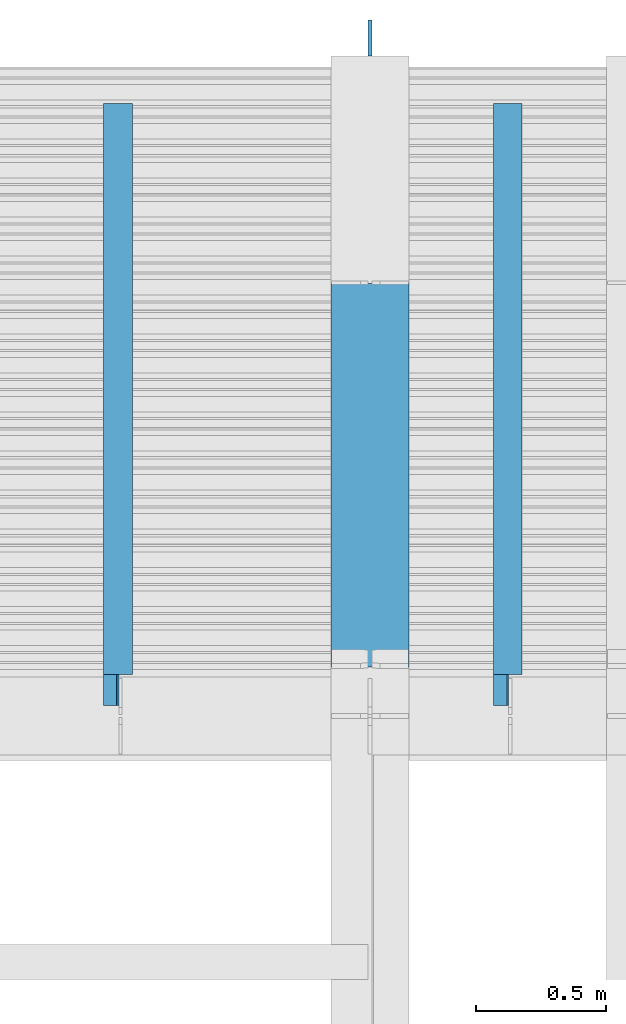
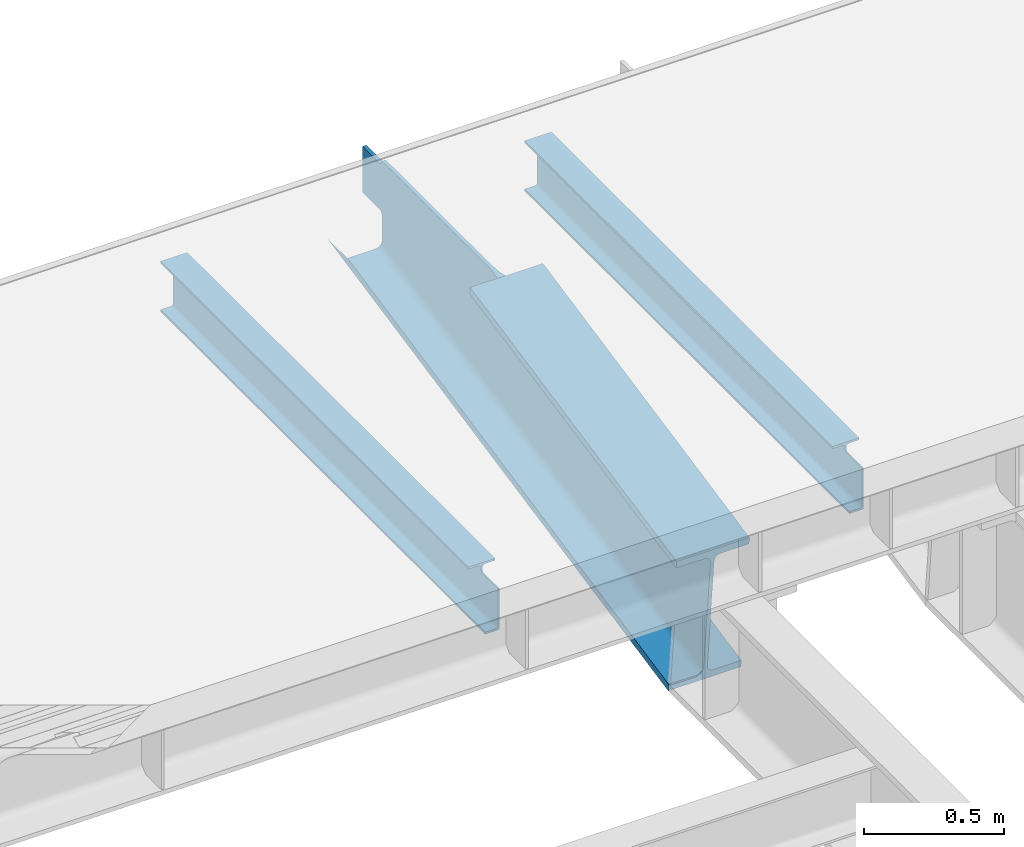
# One storey, part 10 of 12: 3 beams.
"""IFC2X3 building model written with IfcOpenShell, lengths in millimetres."""

from ifc_helpers import new_model, entity, si_unit, converted_unit, derived_unit, direction, frame, origin_with_axes, place, context, subcontext, project, spatial, faceted_brep, type_object, element, save


model = new_model("IFC2X3")

# Units and contexts
model_context = context("Model", 3, precision=0.01, world=frame((0.0, 4.29681676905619e-09, 0.0)), true_north=direction((4.01073788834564e-13, 1.0)))
plan_context = context("Plan", 3, precision=0.01, world=frame((0.0, 4.29681676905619e-09, 0.0)), true_north=direction((4.01073788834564e-13, 1.0)))
body_context = subcontext(model_context, "Body", "Model", "MODEL_VIEW")
ifc_project = project(units=[converted_unit("PLANEANGLEUNIT", "DEGREE", entity("IfcPositiveLengthMeasure", 0.0174532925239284), si_unit("PLANEANGLEUNIT", "RADIAN"), dimensions=[0, 0, 0, 0, 0, 0, 0]), si_unit("AREAUNIT", "SQUARE_METRE"), si_unit("LENGTHUNIT", "METRE", prefix="MILLI"), si_unit("MASSUNIT", "GRAM", prefix="KILO"), si_unit("POWERUNIT", "WATT"), si_unit("PRESSUREUNIT", "PASCAL"), si_unit("FORCEUNIT", "NEWTON", prefix="KILO"), si_unit("ELECTRICVOLTAGEUNIT", "VOLT"), si_unit("ELECTRICCURRENTUNIT", "AMPERE"), si_unit("THERMODYNAMICTEMPERATUREUNIT", "DEGREE_CELSIUS"), si_unit("TIMEUNIT", "SECOND"), si_unit("VOLUMEUNIT", "CUBIC_METRE"), derived_unit("LINEARVELOCITYUNIT", [(si_unit("LENGTHUNIT", "METRE"), 1), (si_unit("TIMEUNIT", "SECOND"), -1)]), derived_unit("VOLUMETRICFLOWRATEUNIT", [(si_unit("VOLUMEUNIT", "CUBIC_METRE"), 1), (si_unit("TIMEUNIT", "SECOND"), -1)]), derived_unit("THERMALTRANSMITTANCEUNIT", [(si_unit("POWERUNIT", "WATT"), 1), (si_unit("THERMODYNAMICTEMPERATUREUNIT", "KELVIN"), -1), (si_unit("AREAUNIT", "SQUARE_METRE"), -1)]), derived_unit("SOUNDPRESSUREUNIT", [(si_unit("PRESSUREUNIT", "PASCAL"), 1)])], contexts=[model_context, plan_context])

# Site, building, storey
site_placement = place(None, frame((0.0, -4.29681676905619e-09, 0.0), z_axis=(0.0, 0.0, 1.0), x_axis=(1.0, 0.0, 0.0)))
site = spatial("IfcSite", under=ifc_project, at=site_placement, Name="Gardermoen", CompositionType="ELEMENT")
building_placement = place(site_placement, frame((0.0, 4.29681676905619e-09, 0.0), z_axis=(0.0, 0.0, 1.0), x_axis=(1.0, 0.0, 0.0)))
building = spatial("IfcBuilding", under=site, at=building_placement, Name="TH", CompositionType="ELEMENT")
storey_placement = place(building_placement, origin_with_axes())
storey = spatial("IfcBuildingStorey", under=building, at=storey_placement, Name="D", CompositionType="ELEMENT", Elevation=0.0)

# Beams
beam_type_1 = type_object("IfcBeamType", Name="HEB600", PredefinedType="NOTDEFINED")
beam_1_placement = place(storey_placement, frame((906470.000000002, 485190.189690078, 209433.977425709), z_axis=(0.0, -0.199367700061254, 0.979924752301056), x_axis=(0.0, 0.979924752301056, 0.199367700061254)))
element("IfcBeam", 1, at=beam_1_placement, inside=storey, type_object=beam_type_1, Name="STÅLBJELKE", ObjectType="HEB600", context=body_context, shape_type="Brep", body=[
    faceted_brep([(-1.86077646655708e-10, -150.000000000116, -300.0), (2336.90976963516, -150.000000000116, -300.0), (2336.90976963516, 149.999999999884, -300.0), (-1.86077646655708e-10, 149.999999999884, -300.0), (3.02083751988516, -150.000000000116, -270.0), (2343.0132156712, -150.000000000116, -270.0), (2336.90976963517, -150.000000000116, -299.99940369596), (2477.73692631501, -150.000000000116, -299.999403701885), (3.02083751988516, -34.7500000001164, -270.0), (2343.0132156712, -34.7500000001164, -270.0), (3.07307761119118, -29.4825613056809, -269.481202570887), (2343.11876617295, -29.4825613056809, -269.481202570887), (3.2277903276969, -24.417547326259, -267.944747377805), (2343.4313614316, -24.417547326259, -267.944747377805), (3.47903014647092, -19.7496037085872, -265.449679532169), (2343.93898858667, -19.7496037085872, -265.449679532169), (3.81714206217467, -15.6581169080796, -262.091883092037), (2344.62213981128, -15.6581169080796, -262.091883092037), (4.22913262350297, -12.3003204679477, -258.000396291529), (2345.45456198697, -12.3003204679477, -258.000396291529), (4.69916926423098, -9.80525262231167, -253.332452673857), (2346.40426559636, -9.80525262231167, -253.332452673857), (5.20918873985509, -8.2687974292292, -248.267438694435), (2347.43475406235, -8.2687974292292, -248.267438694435), (5.73959128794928, -7.75000000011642, -243.0), (2348.50642629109, -7.75000000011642, -243.0), (54.6771591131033, -7.75000000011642, 243.0), (1694.86260503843, -7.75000000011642, 243.0), (2417.47329829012, -7.7500000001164, 95.9833689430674), (2417.0786473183, -7.7500000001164, 92.5195494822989), (2417.2914778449, -7.7500000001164, 89.0398227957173), (2418.10532312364, -7.7500000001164, 85.6499185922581), (2419.49545488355, -7.7500000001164, 82.4528373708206), (2421.41963468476, -7.7500000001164, 79.5457208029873), (2423.81939731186, -7.7500000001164, 77.0169001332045), (2426.62182720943, -7.7500000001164, 74.9432122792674), (2429.74177398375, -7.7500000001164, 73.3876651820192), (2433.08443965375, -7.7500000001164, 72.3975233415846), (2548.71555585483, -7.7500000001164, 48.8721334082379), (2508.84201733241, -7.75000000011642, -147.112809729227), (2393.210926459, -7.75000000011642, -123.587382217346), (2390.0959551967, -7.75000000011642, -123.204911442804), (2386.95950279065, -7.75000000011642, -123.314438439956), (2383.87879912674, -7.75000000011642, -123.913266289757), (2380.92970137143, -7.75000000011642, -124.986649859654), (2378.18482611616, -7.75000000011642, -126.508158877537), (2375.71176131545, -7.75000000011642, -128.440328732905), (2373.57140204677, -7.75000000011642, -130.735582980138), (2371.81645107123, -7.75000000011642, -133.337404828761), (2370.49012111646, -7.75000000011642, -136.181728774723), (2369.62507083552, -7.75000000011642, -139.198518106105), (55.2075616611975, -8.2687974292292, 248.267438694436), (1668.97228569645, -8.26879742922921, 248.267438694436), (55.7175811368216, -9.80525262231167, 253.332452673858), (1644.07691680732, -9.80525262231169, 253.332452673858), (56.1876177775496, -12.3003204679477, 258.000396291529), (1621.13321343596, -12.3003204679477, 258.000396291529), (56.5996083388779, -15.6581169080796, 262.091883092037), (1601.02288923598, -15.6581169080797, 262.091883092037), (56.9377202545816, -19.7496037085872, 265.449679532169), (1584.51877323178, -19.7496037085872, 265.449679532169), (57.1889600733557, -24.417547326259, 267.944747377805), (1572.25510798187, -24.417547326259, 267.944747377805), (57.3436727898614, -29.482561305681, 269.481202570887), (1564.70318020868, -29.482561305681, 269.481202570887), (57.3959128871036, -34.7500005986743, 270.000000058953), (1562.1532028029, -34.7500071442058, 270.000000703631), (57.3959128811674, -150.000000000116, 270.0), (1562.1532028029, -150.000000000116, 270.0), (1562.1532028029, -34.7500000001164, 270.0), (57.3959128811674, -34.7500000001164, 270.0), (60.4167504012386, -150.000000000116, 300.0), (1565.17404025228, -150.000000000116, 300.0), (1562.1532028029, -150.000000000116, 270.000000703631), (57.3959128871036, -150.000000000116, 270.000000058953), (60.4167504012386, 149.999999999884, 300.0), (1565.17404025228, 149.999999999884, 300.0), (57.3959128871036, 149.999999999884, 270.000000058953), (1562.1532028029, 149.999999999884, 270.000000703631), (57.3959128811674, 34.7499999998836, 270.0), (1562.1532028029, 34.7499999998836, 270.0), (1562.1532028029, 149.999999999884, 270.0), (57.3959128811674, 149.999999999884, 270.0), (57.3436727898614, 29.4825613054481, 269.481202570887), (1564.70318020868, 29.4825613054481, 269.481202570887), (1562.1532028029, 34.7500071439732, 270.000000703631), (57.3959128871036, 34.7500005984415, 270.000000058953), (57.1889600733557, 24.4175473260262, 267.944747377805), (1572.25510798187, 24.4175473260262, 267.944747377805), (56.9377202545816, 19.7496037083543, 265.449679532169), (1584.51877323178, 19.7496037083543, 265.449679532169), (56.5996083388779, 15.6581169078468, 262.091883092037), (1601.0228901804, 15.6581169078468, 262.091883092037), (56.1876177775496, 12.3003204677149, 258.000396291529), (1621.13321343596, 12.3003204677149, 258.000396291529), (55.7175811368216, 9.80525262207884, 253.332452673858), (1644.07691680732, 9.80525262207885, 253.332452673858), (55.2075616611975, 8.26879742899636, 248.267438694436), (1668.97228569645, 8.26879742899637, 248.267438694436), (54.6771591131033, 7.74999999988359, 243.0), (1694.86260503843, 7.7499999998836, 243.0), (5.73959128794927, 7.74999999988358, -243.0), (2348.50642629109, 7.74999999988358, -243.0), (2369.62507083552, 7.74999999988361, -139.198518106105), (2370.49012111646, 7.74999999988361, -136.181728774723), (2371.81645107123, 7.74999999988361, -133.337404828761), (2373.57140204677, 7.74999999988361, -130.735582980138), (2375.71176131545, 7.74999999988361, -128.440328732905), (2378.18482611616, 7.74999999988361, -126.508158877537), (2380.92970137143, 7.74999999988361, -124.986649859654), (2383.87879912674, 7.74999999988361, -123.913266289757), (2386.95950279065, 7.74999999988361, -123.314438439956), (2390.0959551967, 7.74999999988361, -123.204911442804), (2393.210926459, 7.74999999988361, -123.587382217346), (2508.84201733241, 7.74999999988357, -147.112809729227), (2548.71555585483, 7.7499999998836, 48.8721334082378), (2433.08443965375, 7.7499999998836, 72.3975233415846), (2429.74177398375, 7.7499999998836, 73.3876651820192), (2426.62182720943, 7.7499999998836, 74.9432122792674), (2423.81939731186, 7.7499999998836, 77.0169001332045), (2421.41963468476, 7.7499999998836, 79.5457208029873), (2419.49545488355, 7.7499999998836, 82.4528373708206), (2418.10532312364, 7.7499999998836, 85.6499185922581), (2417.2914778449, 7.7499999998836, 89.0398227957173), (2417.0786473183, 7.7499999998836, 92.5195494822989), (2417.47329829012, 7.74999999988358, 95.9833689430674), (5.20918873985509, 8.26879742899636, -248.267438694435), (2347.43475406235, 8.26879742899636, -248.267438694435), (4.69916926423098, 9.80525262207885, -253.332452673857), (2346.40426559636, 9.80525262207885, -253.332452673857), (4.22913262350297, 12.3003204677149, -258.000396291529), (2345.45456198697, 12.3003204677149, -258.000396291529), (3.81714206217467, 15.6581169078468, -262.091883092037), (2344.62213981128, 15.6581169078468, -262.091883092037), (3.47903014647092, 19.7496037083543, -265.449679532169), (2343.93898858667, 19.7496037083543, -265.449679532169), (3.2277903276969, 24.4175473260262, -267.944747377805), (2343.4313614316, 24.4175473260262, -267.944747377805), (3.07307761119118, 29.4825613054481, -269.481202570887), (2343.11876617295, 29.4825613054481, -269.481202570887), (3.02083751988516, 34.7499999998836, -270.0), (2343.0132156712, 34.7499999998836, -270.0), (3.02083751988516, 149.999999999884, -270.0), (2343.0132156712, 149.999999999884, -270.0), (2477.73680499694, 149.999999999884, -300.0), (1562.15320273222, 149.999999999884, 270.0), (1562.15320273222, -150.000000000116, 270.0), (2417.47329911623, -7.75000000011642, 95.983373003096), (1694.86260826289, -7.75000000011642, 243.0), (1668.97228829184, -8.2687974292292, 248.267438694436), (1644.07691879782, -9.80525262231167, 253.332452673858), (1621.13321486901, -12.3003204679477, 258.000396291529), (1601.0228901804, -15.6581169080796, 262.091883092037), (1562.15320626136, -34.7500000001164, 270.0), (1562.15320626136, 34.7499999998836, 270.0), (1621.13321486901, 12.3003204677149, 258.000396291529), (1644.07691879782, 9.80525262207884, 253.332452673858), (1668.97228829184, 8.26879742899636, 248.267438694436), (1694.86260826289, 7.74999999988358, 243.0), (2417.47329911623, 7.74999999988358, 95.983373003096), (2336.90976963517, 149.999999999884, -299.99940369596)], [[[0, 1, 2, 3]], [[4, 5, 6, 7, 0]], [[8, 9, 5, 4]], [[10, 11, 9, 8]], [[12, 13, 11, 10]], [[14, 15, 13, 12]], [[16, 17, 15, 14]], [[18, 19, 17, 16]], [[20, 21, 19, 18]], [[22, 23, 21, 20]], [[24, 25, 23, 22]], [[26, 27, 28, 29, 30, 31, 32, 33, 34, 35, 36, 37, 38, 39, 40, 41, 42, 43, 44, 45, 46, 47, 48, 49, 50, 25, 24]], [[51, 52, 27, 26]], [[53, 54, 52, 51]], [[55, 56, 54, 53]], [[57, 58, 56, 55]], [[59, 60, 58, 57]], [[61, 62, 60, 59]], [[63, 64, 62, 61]], [[65, 66, 64, 63]], [[67, 68, 69, 70]], [[71, 72, 73, 74]], [[75, 76, 72, 71]], [[77, 78, 76, 75]], [[79, 80, 81, 82]], [[83, 84, 85, 86]], [[87, 88, 84, 83]], [[89, 90, 88, 87]], [[91, 92, 90, 89]], [[93, 94, 92, 91]], [[95, 96, 94, 93]], [[97, 98, 96, 95]], [[99, 100, 98, 97]], [[101, 102, 103, 104, 105, 106, 107, 108, 109, 110, 111, 112, 113, 114, 115, 116, 117, 118, 119, 120, 121, 122, 123, 124, 125, 100, 99]], [[126, 127, 102, 101]], [[128, 129, 127, 126]], [[130, 131, 129, 128]], [[132, 133, 131, 130]], [[134, 135, 133, 132]], [[136, 137, 135, 134]], [[138, 139, 137, 136]], [[140, 141, 139, 138]], [[142, 143, 141, 140]], [[3, 2, 144, 143, 142]], [[125, 124, 29, 28]], [[124, 123, 30, 29]], [[123, 122, 31, 30]], [[122, 121, 32, 31]], [[121, 120, 33, 32]], [[120, 119, 34, 33]], [[119, 118, 35, 34]], [[118, 117, 36, 35]], [[117, 116, 37, 36]], [[38, 37, 116, 115]], [[76, 145, 146, 72]], [[147, 148, 149, 150, 151, 152, 60, 62, 64, 153, 154, 84, 88, 90, 92, 155, 156, 157, 158, 159]], [[6, 5, 9, 11, 13, 15, 17, 19, 21, 23, 25, 50, 103, 102, 127, 129, 131, 133, 135, 137, 139, 141, 143, 160]], [[50, 49, 104, 103]], [[49, 48, 105, 104]], [[48, 47, 106, 105]], [[47, 46, 107, 106]], [[46, 45, 108, 107]], [[45, 44, 109, 108]], [[44, 43, 110, 109]], [[43, 42, 111, 110]], [[42, 41, 112, 111]], [[41, 40, 113, 112]], [[114, 113, 40, 39]], [[115, 114, 39, 38]], [[142, 140, 138, 136, 134, 132, 130, 128, 126, 101, 99, 97, 95, 93, 91, 89, 87, 83, 79, 77, 75, 71, 67, 65, 63, 61, 59, 57, 55, 53, 51, 26, 24, 22, 20, 18, 16, 14, 12, 10, 8, 4, 0, 3]]], orient=[[False], [False], [False], [False], [False], [False], [False], [False], [False], [False], [False], [False], [False], [False], [False], [False], [False], [False], [False], [False], [False], [False], [False], [False], [False], [False], [False], [False], [False], [False], [False], [False], [False], [False], [False], [False], [False], [False], [False], [False], [False], [False], [False], [False], [False], [False], [False], [False], [False], [False], [False], [False], [False], [False], [False], [False], [False], [False], [False], [False], [False], [False], [False], [False], [False], [False], [False], [False], [False], [False]]),
])
beam_type_2 = type_object("IfcBeamType", Name="IPE220", PredefinedType="NOTDEFINED")
beam_2_placement = place(storey_placement, frame((906999.999781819, 484999.995625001, 209930.0), z_axis=(0.0, 0.0, 1.0), x_axis=(0.0, 1.0, 0.0)))
element("IfcBeam", 2, at=beam_2_placement, inside=storey, type_object=beam_type_2, Name="STÅLBJELKE", ObjectType="IPE220", context=body_context, shape_type="Brep", body=[
    faceted_brep([(2357.65437500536, -55.0, -110.0), (2357.65437500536, 55.0, -110.0), (39.9999999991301, 55.0, -110.0), (39.9999999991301, -2.95000004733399, -110.0), (159.99999999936, -2.95000004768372, -110.0), (159.99999999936, -55.0, -110.0), (2357.65437500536, -55.0, -100.800000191), (159.99999999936, -55.0, -100.800000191), (2357.65437500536, -14.9500000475, -100.800000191), (159.99999999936, -14.9500000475, -100.800000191), (2357.65437500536, -12.6089161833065, -100.569423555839), (159.99999999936, -12.6089161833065, -100.569423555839), (2357.65437500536, -10.3577988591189, -99.8865545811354), (159.99999999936, -10.3577988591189, -99.8865545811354), (2357.65437500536, -8.28315725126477, -98.7776355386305), (159.99999999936, -8.28315725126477, -98.7776355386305), (2357.65437500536, -6.46471867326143, -97.2852815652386), (159.99999999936, -6.46471867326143, -97.2852815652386), (2357.65437500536, -4.97236469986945, -95.4668429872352), (159.99999999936, -4.97236469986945, -95.4668429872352), (2357.65437500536, -3.86344565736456, -93.3922013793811), (159.99999999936, -3.86344565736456, -93.3922013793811), (2357.65437500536, -3.18057668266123, -91.1410840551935), (159.99999999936, -3.18057668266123, -91.1410840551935), (2357.65437500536, -2.9500000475, -88.800000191), (159.99999999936, -2.96969830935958, -89.0), (39.9999999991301, -2.96969830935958, -89.0), (39.9999999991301, -2.9500000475, -88.800000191), (2357.65437500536, -2.9500000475, 88.800000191), (39.9999999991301, -2.9500000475, 70.0), (149.999999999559, -2.9500000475, 69.9999999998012), (151.564344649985, -2.9500000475, 70.1231165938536), (153.090169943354, -2.9500000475, 70.4894348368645), (154.539904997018, -2.9500000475, 71.0899347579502), (155.877852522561, -2.9500000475, 71.9098300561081), (157.071067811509, -2.9500000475, 72.9289321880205), (158.090169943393, -2.9500000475, 74.1221474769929), (158.910065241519, -2.9500000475, 75.4600950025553), (159.510565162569, -2.9500000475, 76.9098300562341), (159.876883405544, -2.9500000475, 78.435655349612), (159.999999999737, -2.9500000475, 79.999999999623), (159.999999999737, -2.9500000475, 88.800000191), (2357.65437500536, -3.18057668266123, 91.1410840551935), (159.999999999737, -3.18057668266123, 91.1410840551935), (2357.65437500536, -3.86344565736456, 93.3922013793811), (159.999999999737, -3.86344565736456, 93.3922013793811), (2357.65437500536, -4.97236469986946, 95.4668429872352), (159.999999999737, -4.97236469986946, 95.4668429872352), (2357.65437500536, -6.46471867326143, 97.2852815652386), (159.999999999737, -6.46471867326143, 97.2852815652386), (2357.65437500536, -8.28315725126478, 98.7776355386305), (159.999999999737, -8.28315725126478, 98.7776355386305), (2357.65437500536, -10.3577988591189, 99.8865545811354), (159.999999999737, -10.3577988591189, 99.8865545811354), (2357.65437500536, -12.6089161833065, 100.569423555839), (159.999999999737, -12.6089161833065, 100.569423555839), (2357.65437500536, -14.9500000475, 100.800000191), (159.999999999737, -14.9500000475, 100.800000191), (2357.65437500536, -55.0, 100.800000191), (159.999999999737, -55.0, 100.800000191), (2357.65437500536, -55.0, 110.0), (159.999999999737, -55.0, 110.0), (2357.65437500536, 55.0, 110.0), (159.999999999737, 55.0, 110.0), (2357.65437500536, 55.0, 100.800000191), (159.999999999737, 55.0, 100.800000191), (2357.65437500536, 14.9500000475, 100.800000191), (159.999999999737, 14.9500000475, 100.800000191), (2357.65437500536, 12.6089161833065, 100.569423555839), (159.999999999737, 12.6089161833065, 100.569423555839), (2357.65437500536, 10.3577988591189, 99.8865545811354), (159.999999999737, 10.3577988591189, 99.8865545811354), (2357.65437500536, 8.28315725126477, 98.7776355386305), (159.999999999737, 8.28315725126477, 98.7776355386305), (2357.65437500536, 6.46471867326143, 97.2852815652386), (159.999999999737, 6.46471867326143, 97.2852815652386), (2357.65437500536, 4.97236469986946, 95.4668429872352), (159.999999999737, 4.97236469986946, 95.4668429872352), (2357.65437500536, 3.86344565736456, 93.3922013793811), (159.999999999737, 3.86344565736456, 93.3922013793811), (2357.65437500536, 3.18057668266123, 91.1410840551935), (159.999999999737, 3.18057668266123, 91.1410840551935), (2357.65437500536, 2.9500000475, 88.800000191), (159.999999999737, 2.9500000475, 88.800000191), (2357.65437500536, 2.9500000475, -88.800000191), (159.999999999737, 2.95000004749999, 79.999999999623), (159.876883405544, 2.95000004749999, 78.435655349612), (159.510565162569, 2.95000004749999, 76.9098300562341), (158.910065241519, 2.95000004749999, 75.4600950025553), (158.090169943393, 2.95000004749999, 74.1221474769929), (157.071067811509, 2.95000004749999, 72.9289321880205), (155.877852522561, 2.95000004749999, 71.9098300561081), (154.539904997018, 2.95000004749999, 71.0899347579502), (153.090169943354, 2.95000004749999, 70.4894348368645), (151.564344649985, 2.95000004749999, 70.1231165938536), (149.999999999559, 2.95000004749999, 69.9999999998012), (39.9999999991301, 2.9500000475, 70.0), (39.9999999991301, 2.9500000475, -88.800000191), (2357.65437500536, 3.18057668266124, -91.1410840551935), (39.9999999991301, 3.18057668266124, -91.1410840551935), (2357.65437500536, 3.86344565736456, -93.3922013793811), (39.9999999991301, 3.86344565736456, -93.3922013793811), (2357.65437500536, 4.97236469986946, -95.4668429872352), (39.9999999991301, 4.97236469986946, -95.4668429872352), (2357.65437500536, 6.46471867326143, -97.2852815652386), (39.9999999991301, 6.46471867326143, -97.2852815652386), (2357.65437500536, 8.28315725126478, -98.7776355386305), (39.9999999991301, 8.28315725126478, -98.7776355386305), (2357.65437500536, 10.3577988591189, -99.8865545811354), (39.9999999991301, 10.3577988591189, -99.8865545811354), (2357.65437500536, 12.6089161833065, -100.569423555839), (39.9999999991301, 12.6089161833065, -100.569423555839), (2357.65437500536, 14.9500000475, -100.800000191), (39.9999999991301, 14.9500000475, -100.800000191), (2357.65437500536, 55.0, -100.800000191), (39.9999999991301, 55.0, -100.800000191), (159.99999999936, -2.95000004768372, -89.0), (39.9999999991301, -2.95000004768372, -89.0)], [[[0, 1, 2, 3, 4, 5]], [[6, 0, 5, 7]], [[8, 6, 7, 9]], [[10, 8, 9, 11]], [[12, 10, 11, 13]], [[14, 12, 13, 15]], [[16, 14, 15, 17]], [[18, 16, 17, 19]], [[20, 18, 19, 21]], [[22, 20, 21, 23]], [[24, 22, 23, 25, 26, 27]], [[28, 24, 27, 29, 30, 31, 32, 33, 34, 35, 36, 37, 38, 39, 40, 41]], [[42, 28, 41, 43]], [[44, 42, 43, 45]], [[46, 44, 45, 47]], [[48, 46, 47, 49]], [[50, 48, 49, 51]], [[52, 50, 51, 53]], [[54, 52, 53, 55]], [[56, 54, 55, 57]], [[58, 56, 57, 59]], [[60, 58, 59, 61]], [[62, 60, 61, 63]], [[64, 62, 63, 65]], [[66, 64, 65, 67]], [[68, 66, 67, 69]], [[70, 68, 69, 71]], [[72, 70, 71, 73]], [[74, 72, 73, 75]], [[76, 74, 75, 77]], [[78, 76, 77, 79]], [[80, 78, 79, 81]], [[82, 80, 81, 83]], [[84, 82, 83, 85, 86, 87, 88, 89, 90, 91, 92, 93, 94, 95, 96, 97]], [[98, 84, 97, 99]], [[100, 98, 99, 101]], [[102, 100, 101, 103]], [[104, 102, 103, 105]], [[106, 104, 105, 107]], [[108, 106, 107, 109]], [[110, 108, 109, 111]], [[112, 110, 111, 113]], [[114, 112, 113, 115]], [[1, 114, 115, 2]], [[116, 25, 23, 21, 19, 17, 15, 13, 11, 9, 7, 5, 4]], [[116, 117, 26, 25]], [[116, 4, 3, 117]], [[30, 29, 96, 95]], [[95, 94, 31, 30]], [[94, 93, 32, 31]], [[93, 92, 33, 32]], [[92, 91, 34, 33]], [[91, 90, 35, 34]], [[90, 89, 36, 35]], [[89, 88, 37, 36]], [[88, 87, 38, 37]], [[87, 86, 39, 38]], [[86, 85, 40, 39]], [[85, 83, 81, 79, 77, 75, 73, 71, 69, 67, 65, 63, 61, 59, 57, 55, 53, 51, 49, 47, 45, 43, 41, 40]], [[26, 117, 3, 2, 115, 113, 111, 109, 107, 105, 103, 101, 99, 97, 96, 29, 27]], [[6, 8, 10, 12, 14, 16, 18, 20, 22, 24, 28, 42, 44, 46, 48, 50, 52, 54, 56, 58, 60, 62, 64, 66, 68, 70, 72, 74, 76, 78, 80, 82, 84, 98, 100, 102, 104, 106, 108, 110, 112, 114, 1, 0]]], orient=[[False], [False], [False], [False], [False], [False], [False], [False], [False], [False], [False], [False], [False], [False], [False], [False], [False], [False], [False], [False], [False], [False], [False], [False], [False], [False], [False], [False], [False], [False], [False], [False], [False], [False], [False], [False], [False], [False], [False], [False], [False], [False], [False], [False], [False], [False], [False], [False], [False], [False], [False], [False], [False], [False], [False], [False], [False], [False], [False], [False], [False]]),
])
beam_3_placement = place(storey_placement, frame((905499.999781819, 484999.995625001, 209930.0), z_axis=(0.0, 0.0, 1.0), x_axis=(0.0, 1.0, 0.0)))
element("IfcBeam", 3, at=beam_3_placement, inside=storey, type_object=beam_type_2, Name="STÅLBJELKE", ObjectType="IPE220", context=body_context, shape_type="Brep", body=[
    faceted_brep([(2357.65437500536, -55.0, -110.0), (2357.65437500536, 55.0, -110.0), (39.9999999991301, 55.0, -110.0), (39.9999999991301, -2.95000004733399, -110.0), (159.99999999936, -2.95000004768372, -110.0), (159.99999999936, -55.0, -110.0), (2357.65437500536, -55.0, -100.800000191), (159.99999999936, -55.0, -100.800000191), (2357.65437500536, -14.9500000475, -100.800000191), (159.99999999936, -14.9500000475, -100.800000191), (2357.65437500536, -12.6089161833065, -100.569423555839), (159.99999999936, -12.6089161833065, -100.569423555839), (2357.65437500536, -10.3577988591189, -99.8865545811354), (159.99999999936, -10.3577988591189, -99.8865545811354), (2357.65437500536, -8.28315725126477, -98.7776355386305), (159.99999999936, -8.28315725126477, -98.7776355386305), (2357.65437500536, -6.46471867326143, -97.2852815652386), (159.99999999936, -6.46471867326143, -97.2852815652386), (2357.65437500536, -4.97236469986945, -95.4668429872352), (159.99999999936, -4.97236469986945, -95.4668429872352), (2357.65437500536, -3.86344565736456, -93.3922013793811), (159.99999999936, -3.86344565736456, -93.3922013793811), (2357.65437500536, -3.18057668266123, -91.1410840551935), (159.99999999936, -3.18057668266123, -91.1410840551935), (2357.65437500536, -2.9500000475, -88.800000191), (159.99999999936, -2.96969830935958, -89.0), (39.9999999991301, -2.96969830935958, -89.0), (39.9999999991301, -2.9500000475, -88.800000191), (2357.65437500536, -2.9500000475, 88.800000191), (39.9999999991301, -2.9500000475, 70.0), (149.999999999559, -2.9500000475, 69.9999999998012), (151.564344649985, -2.9500000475, 70.1231165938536), (153.090169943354, -2.9500000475, 70.4894348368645), (154.539904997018, -2.9500000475, 71.0899347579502), (155.877852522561, -2.9500000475, 71.9098300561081), (157.071067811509, -2.9500000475, 72.9289321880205), (158.090169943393, -2.9500000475, 74.1221474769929), (158.910065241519, -2.9500000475, 75.4600950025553), (159.510565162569, -2.9500000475, 76.9098300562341), (159.876883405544, -2.9500000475, 78.435655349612), (159.999999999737, -2.9500000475, 79.999999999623), (159.999999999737, -2.9500000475, 88.800000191), (2357.65437500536, -3.18057668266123, 91.1410840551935), (159.999999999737, -3.18057668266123, 91.1410840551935), (2357.65437500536, -3.86344565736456, 93.3922013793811), (159.999999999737, -3.86344565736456, 93.3922013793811), (2357.65437500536, -4.97236469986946, 95.4668429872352), (159.999999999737, -4.97236469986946, 95.4668429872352), (2357.65437500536, -6.46471867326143, 97.2852815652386), (159.999999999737, -6.46471867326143, 97.2852815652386), (2357.65437500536, -8.28315725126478, 98.7776355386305), (159.999999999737, -8.28315725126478, 98.7776355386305), (2357.65437500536, -10.3577988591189, 99.8865545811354), (159.999999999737, -10.3577988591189, 99.8865545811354), (2357.65437500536, -12.6089161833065, 100.569423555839), (159.999999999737, -12.6089161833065, 100.569423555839), (2357.65437500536, -14.9500000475, 100.800000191), (159.999999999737, -14.9500000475, 100.800000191), (2357.65437500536, -55.0, 100.800000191), (159.999999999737, -55.0, 100.800000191), (2357.65437500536, -55.0, 110.0), (159.999999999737, -55.0, 110.0), (2357.65437500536, 55.0, 110.0), (159.999999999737, 55.0, 110.0), (2357.65437500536, 55.0, 100.800000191), (159.999999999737, 55.0, 100.800000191), (2357.65437500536, 14.9500000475, 100.800000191), (159.999999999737, 14.9500000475, 100.800000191), (2357.65437500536, 12.6089161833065, 100.569423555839), (159.999999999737, 12.6089161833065, 100.569423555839), (2357.65437500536, 10.3577988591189, 99.8865545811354), (159.999999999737, 10.3577988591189, 99.8865545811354), (2357.65437500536, 8.28315725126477, 98.7776355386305), (159.999999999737, 8.28315725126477, 98.7776355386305), (2357.65437500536, 6.46471867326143, 97.2852815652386), (159.999999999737, 6.46471867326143, 97.2852815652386), (2357.65437500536, 4.97236469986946, 95.4668429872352), (159.999999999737, 4.97236469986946, 95.4668429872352), (2357.65437500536, 3.86344565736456, 93.3922013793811), (159.999999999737, 3.86344565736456, 93.3922013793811), (2357.65437500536, 3.18057668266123, 91.1410840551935), (159.999999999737, 3.18057668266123, 91.1410840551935), (2357.65437500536, 2.9500000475, 88.800000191), (159.999999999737, 2.9500000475, 88.800000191), (2357.65437500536, 2.9500000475, -88.800000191), (159.999999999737, 2.95000004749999, 79.999999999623), (159.876883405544, 2.95000004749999, 78.435655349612), (159.510565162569, 2.95000004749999, 76.9098300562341), (158.910065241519, 2.95000004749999, 75.4600950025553), (158.090169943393, 2.95000004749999, 74.1221474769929), (157.071067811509, 2.95000004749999, 72.9289321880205), (155.877852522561, 2.95000004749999, 71.9098300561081), (154.539904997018, 2.95000004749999, 71.0899347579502), (153.090169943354, 2.95000004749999, 70.4894348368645), (151.564344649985, 2.95000004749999, 70.1231165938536), (149.999999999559, 2.95000004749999, 69.9999999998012), (39.9999999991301, 2.9500000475, 70.0), (39.9999999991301, 2.9500000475, -88.800000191), (2357.65437500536, 3.18057668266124, -91.1410840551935), (39.9999999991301, 3.18057668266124, -91.1410840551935), (2357.65437500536, 3.86344565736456, -93.3922013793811), (39.9999999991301, 3.86344565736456, -93.3922013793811), (2357.65437500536, 4.97236469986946, -95.4668429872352), (39.9999999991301, 4.97236469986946, -95.4668429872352), (2357.65437500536, 6.46471867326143, -97.2852815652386), (39.9999999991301, 6.46471867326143, -97.2852815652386), (2357.65437500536, 8.28315725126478, -98.7776355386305), (39.9999999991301, 8.28315725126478, -98.7776355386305), (2357.65437500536, 10.3577988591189, -99.8865545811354), (39.9999999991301, 10.3577988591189, -99.8865545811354), (2357.65437500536, 12.6089161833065, -100.569423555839), (39.9999999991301, 12.6089161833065, -100.569423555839), (2357.65437500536, 14.9500000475, -100.800000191), (39.9999999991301, 14.9500000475, -100.800000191), (2357.65437500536, 55.0, -100.800000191), (39.9999999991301, 55.0, -100.800000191), (159.99999999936, -2.95000004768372, -89.0), (39.9999999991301, -2.95000004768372, -89.0)], [[[0, 1, 2, 3, 4, 5]], [[6, 0, 5, 7]], [[8, 6, 7, 9]], [[10, 8, 9, 11]], [[12, 10, 11, 13]], [[14, 12, 13, 15]], [[16, 14, 15, 17]], [[18, 16, 17, 19]], [[20, 18, 19, 21]], [[22, 20, 21, 23]], [[24, 22, 23, 25, 26, 27]], [[28, 24, 27, 29, 30, 31, 32, 33, 34, 35, 36, 37, 38, 39, 40, 41]], [[42, 28, 41, 43]], [[44, 42, 43, 45]], [[46, 44, 45, 47]], [[48, 46, 47, 49]], [[50, 48, 49, 51]], [[52, 50, 51, 53]], [[54, 52, 53, 55]], [[56, 54, 55, 57]], [[58, 56, 57, 59]], [[60, 58, 59, 61]], [[62, 60, 61, 63]], [[64, 62, 63, 65]], [[66, 64, 65, 67]], [[68, 66, 67, 69]], [[70, 68, 69, 71]], [[72, 70, 71, 73]], [[74, 72, 73, 75]], [[76, 74, 75, 77]], [[78, 76, 77, 79]], [[80, 78, 79, 81]], [[82, 80, 81, 83]], [[84, 82, 83, 85, 86, 87, 88, 89, 90, 91, 92, 93, 94, 95, 96, 97]], [[98, 84, 97, 99]], [[100, 98, 99, 101]], [[102, 100, 101, 103]], [[104, 102, 103, 105]], [[106, 104, 105, 107]], [[108, 106, 107, 109]], [[110, 108, 109, 111]], [[112, 110, 111, 113]], [[114, 112, 113, 115]], [[1, 114, 115, 2]], [[116, 25, 23, 21, 19, 17, 15, 13, 11, 9, 7, 5, 4]], [[116, 117, 26, 25]], [[116, 4, 3, 117]], [[30, 29, 96, 95]], [[95, 94, 31, 30]], [[94, 93, 32, 31]], [[93, 92, 33, 32]], [[92, 91, 34, 33]], [[91, 90, 35, 34]], [[90, 89, 36, 35]], [[89, 88, 37, 36]], [[88, 87, 38, 37]], [[87, 86, 39, 38]], [[86, 85, 40, 39]], [[85, 83, 81, 79, 77, 75, 73, 71, 69, 67, 65, 63, 61, 59, 57, 55, 53, 51, 49, 47, 45, 43, 41, 40]], [[26, 117, 3, 2, 115, 113, 111, 109, 107, 105, 103, 101, 99, 97, 96, 29, 27]], [[6, 8, 10, 12, 14, 16, 18, 20, 22, 24, 28, 42, 44, 46, 48, 50, 52, 54, 56, 58, 60, 62, 64, 66, 68, 70, 72, 74, 76, 78, 80, 82, 84, 98, 100, 102, 104, 106, 108, 110, 112, 114, 1, 0]]], orient=[[False], [False], [False], [False], [False], [False], [False], [False], [False], [False], [False], [False], [False], [False], [False], [False], [False], [False], [False], [False], [False], [False], [False], [False], [False], [False], [False], [False], [False], [False], [False], [False], [False], [False], [False], [False], [False], [False], [False], [False], [False], [False], [False], [False], [False], [False], [False], [False], [False], [False], [False], [False], [False], [False], [False], [False], [False], [False], [False], [False], [False]]),
])

save(model, "model.ifc")
